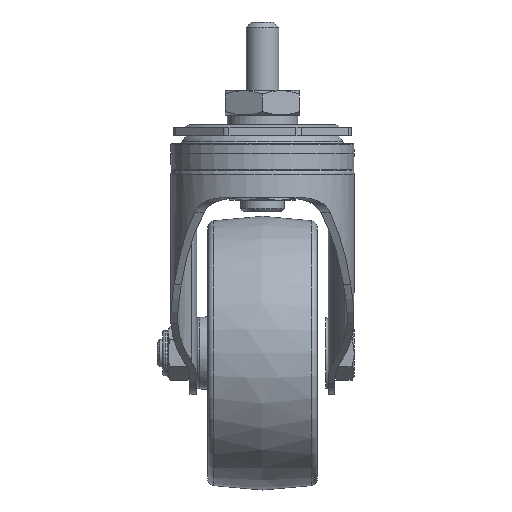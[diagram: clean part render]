
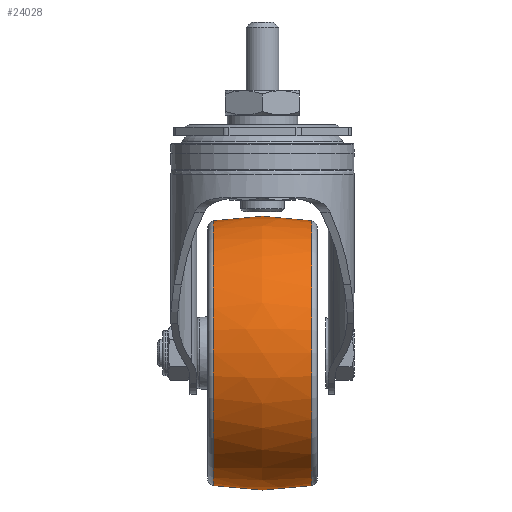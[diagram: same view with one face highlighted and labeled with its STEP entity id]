
A CAD part, left-side view. The second image highlights one B-rep face of the part: STEP entity #24028.
In plain terms, the highlighted free-form (B-spline) face has degree [2, 2] with [3, 9] control points.
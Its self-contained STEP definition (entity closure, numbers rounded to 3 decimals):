
#15=(
BOUNDED_SURFACE()
B_SPLINE_SURFACE(2,2,((#42136,#42137,#42138,#42139,#42140,#42141,#42142,
#42143,#42144),(#42145,#42146,#42147,#42148,#42149,#42150,#42151,#42152,
#42153),(#42154,#42155,#42156,#42157,#42158,#42159,#42160,#42161,#42162)),
 .UNSPECIFIED.,.F.,.T.,.F.)
B_SPLINE_SURFACE_WITH_KNOTS((3,3),(3,2,2,2,3),(-0.18,0.18),
(-3.142,-1.571,0.,1.571,3.142),
 .UNSPECIFIED.)
GEOMETRIC_REPRESENTATION_ITEM()
RATIONAL_B_SPLINE_SURFACE(((1.,0.707,1.,0.707,1.,
0.707,1.,0.707,1.),(0.984,0.696,
0.984,0.696,0.984,0.696,
0.984,0.696,0.984),(1.,0.707,
1.,0.707,1.,0.707,1.,0.707,1.)))
REPRESENTATION_ITEM('')
SURFACE()
);
#7021=FACE_OUTER_BOUND('',#8444,.T.);
#8444=EDGE_LOOP('',(#22650,#22651,#22652,#22653));
#8728=CIRCLE('',#25180,48.376);
#8730=CIRCLE('',#25182,48.376);
#8731=CIRCLE('',#25183,100.);
#12087=VERTEX_POINT('',#42133);
#12088=VERTEX_POINT('',#42163);
#15608=EDGE_CURVE('',#12087,#12087,#8728,.T.);
#15610=EDGE_CURVE('',#12088,#12088,#8730,.T.);
#15611=EDGE_CURVE('',#12088,#12087,#8731,.T.);
#22650=ORIENTED_EDGE('',*,*,#15610,.F.);
#22651=ORIENTED_EDGE('',*,*,#15611,.T.);
#22652=ORIENTED_EDGE('',*,*,#15608,.T.);
#22653=ORIENTED_EDGE('',*,*,#15611,.F.);
#24028=ADVANCED_FACE('',(#7021),#15,.F.);
#25180=AXIS2_PLACEMENT_3D('',#42134,#29567,#29568);
#25182=AXIS2_PLACEMENT_3D('',#42164,#29571,#29572);
#25183=AXIS2_PLACEMENT_3D('',#42165,#29573,#29574);
#29567=DIRECTION('center_axis',(0.,-1.,0.));
#29568=DIRECTION('ref_axis',(-1.,0.,0.));
#29571=DIRECTION('center_axis',(0.,-1.,0.));
#29572=DIRECTION('ref_axis',(-1.,0.,0.));
#29573=DIRECTION('center_axis',(0.,0.,
1.));
#29574=DIRECTION('ref_axis',(1.,0.,0.));
#42133=CARTESIAN_POINT('',(84.376,17.949,-83.8));
#42134=CARTESIAN_POINT('Origin',(36.,17.949,-83.8));
#42136=CARTESIAN_POINT('Ctrl Pts',(84.376,17.949,-83.8));
#42137=CARTESIAN_POINT('Ctrl Pts',(84.376,17.949,-35.424));
#42138=CARTESIAN_POINT('Ctrl Pts',(36.,17.949,-35.424));
#42139=CARTESIAN_POINT('Ctrl Pts',(-12.376,17.949,-35.424));
#42140=CARTESIAN_POINT('Ctrl Pts',(-12.376,17.949,-83.8));
#42141=CARTESIAN_POINT('Ctrl Pts',(-12.376,17.949,-132.176));
#42142=CARTESIAN_POINT('Ctrl Pts',(36.,17.949,-132.176));
#42143=CARTESIAN_POINT('Ctrl Pts',(84.376,17.949,-132.176));
#42144=CARTESIAN_POINT('Ctrl Pts',(84.376,17.949,-83.8));
#42145=CARTESIAN_POINT('Ctrl Pts',(87.651,0.,
-83.8));
#42146=CARTESIAN_POINT('Ctrl Pts',(87.651,0.,
-32.149));
#42147=CARTESIAN_POINT('Ctrl Pts',(36.,0.,
-32.149));
#42148=CARTESIAN_POINT('Ctrl Pts',(-15.651,0.,
-32.149));
#42149=CARTESIAN_POINT('Ctrl Pts',(-15.651,0.,
-83.8));
#42150=CARTESIAN_POINT('Ctrl Pts',(-15.651,0.,
-135.451));
#42151=CARTESIAN_POINT('Ctrl Pts',(36.,0.,
-135.451));
#42152=CARTESIAN_POINT('Ctrl Pts',(87.651,0.,
-135.451));
#42153=CARTESIAN_POINT('Ctrl Pts',(87.651,0.,
-83.8));
#42154=CARTESIAN_POINT('Ctrl Pts',(84.376,-17.949,-83.8));
#42155=CARTESIAN_POINT('Ctrl Pts',(84.376,-17.949,-35.424));
#42156=CARTESIAN_POINT('Ctrl Pts',(36.,-17.949,-35.424));
#42157=CARTESIAN_POINT('Ctrl Pts',(-12.376,-17.949,
-35.424));
#42158=CARTESIAN_POINT('Ctrl Pts',(-12.376,-17.949,
-83.8));
#42159=CARTESIAN_POINT('Ctrl Pts',(-12.376,-17.949,
-132.176));
#42160=CARTESIAN_POINT('Ctrl Pts',(36.,-17.949,-132.176));
#42161=CARTESIAN_POINT('Ctrl Pts',(84.376,-17.949,-132.176));
#42162=CARTESIAN_POINT('Ctrl Pts',(84.376,-17.949,-83.8));
#42163=CARTESIAN_POINT('',(84.376,-17.949,-83.8));
#42164=CARTESIAN_POINT('Origin',(36.,-17.949,-83.8));
#42165=CARTESIAN_POINT('Origin',(-14.,0.,
-83.8));
